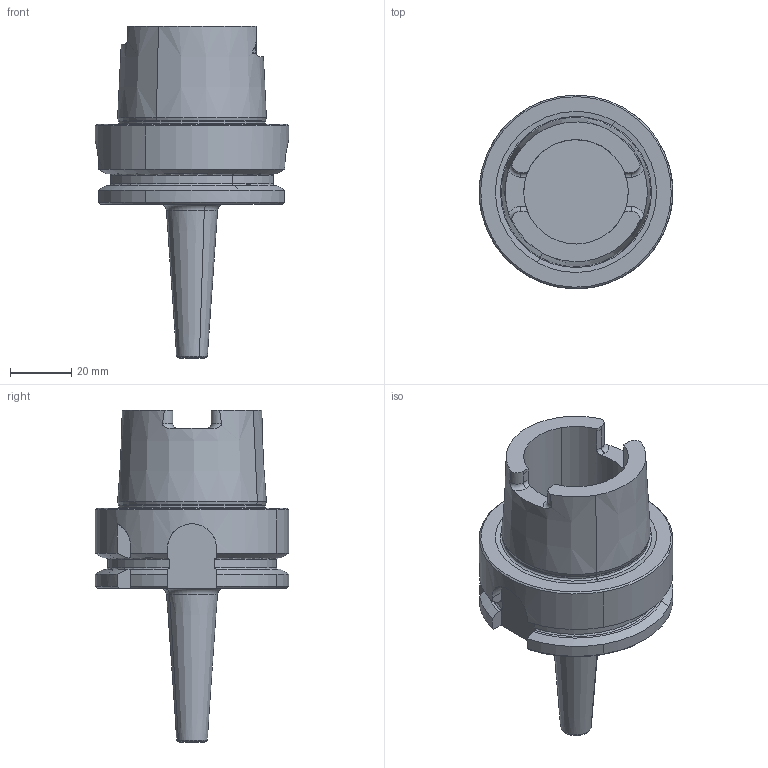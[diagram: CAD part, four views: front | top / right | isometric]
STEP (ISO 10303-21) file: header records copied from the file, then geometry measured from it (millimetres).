
FILE_DESCRIPTION(('CATIA V5 STEP Exchange'),'2;1');
FILE_NAME('I:\isr\design\admin8\users\weaam_s\4503214.L.stp','2012-07-18T04:17:45+00:00',('none'),('none'),'CATIA Version 5 Release 21 SP 3 (IN-10)','CATIA V5 STEP AP214','none');
FILE_SCHEMA(('AUTOMOTIVE_DESIGN { 1 0 10303 214 1 1 1 1 }'));
Length unit declared in the file: millimetre
Products named in the file (1): 61003902_0 Holder-Tool HSK A 63 SRK 3X50
Bounding box: 63 x 63 x 108 mm (x, y, z)
Volume: 98193.6 mm3; surface area: 22940.3 mm2
Topology: 1 solids, 1 shells, 114 faces, 301 edges, 192 vertices
Faces by surface type: plane 37, cylinder 30, cone 27, torus 20
Entity records: 3658 total; most frequent: CARTESIAN_POINT 1142, ORIENTED_EDGE 602, DIRECTION 372, EDGE_CURVE 301, VERTEX_POINT 192, AXIS2_PLACEMENT_3D 190, CIRCLE 125, VECTOR 119
